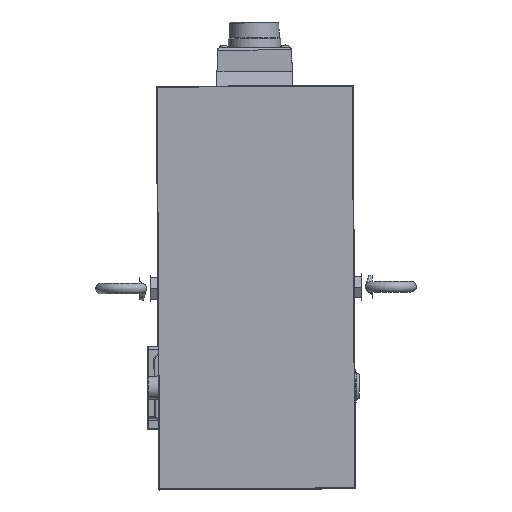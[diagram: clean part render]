
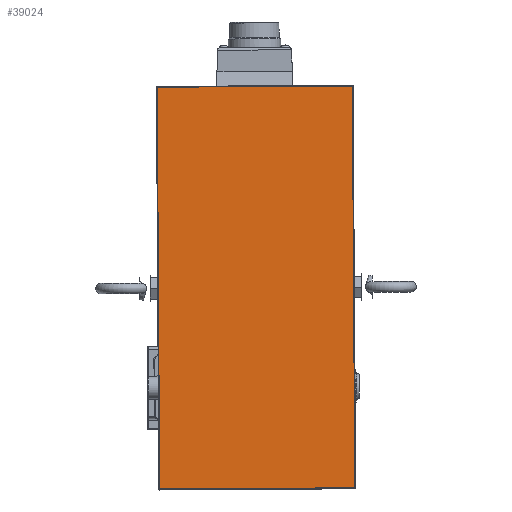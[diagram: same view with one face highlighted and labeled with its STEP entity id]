
A CAD part, top view. The second image highlights one B-rep face of the part: STEP entity #39024.
In plain terms, the highlighted planar face has unit normal (0, 0, 1).
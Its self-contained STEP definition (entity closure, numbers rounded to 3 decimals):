
#1926=PLANE('',#42383);
#5687=FACE_OUTER_BOUND('',#7935,.T.);
#7935=EDGE_LOOP('',(#33083,#33084,#33085,#33086));
#13135=LINE('',#73173,#15959);
#13138=LINE('',#73181,#15962);
#13140=LINE('',#73184,#15964);
#13144=LINE('',#73190,#15968);
#15959=VECTOR('',#51222,10.);
#15962=VECTOR('',#51231,10.);
#15964=VECTOR('',#51235,10.);
#15968=VECTOR('',#51243,10.);
#19153=VERTEX_POINT('',#73148);
#19154=VERTEX_POINT('',#73152);
#19158=VERTEX_POINT('',#73161);
#19160=VERTEX_POINT('',#73166);
#24083=EDGE_CURVE('',#19160,#19158,#13135,.T.);
#24087=EDGE_CURVE('',#19154,#19160,#13138,.T.);
#24089=EDGE_CURVE('',#19158,#19153,#13140,.T.);
#24093=EDGE_CURVE('',#19153,#19154,#13144,.T.);
#33083=ORIENTED_EDGE('',*,*,#24083,.F.);
#33084=ORIENTED_EDGE('',*,*,#24087,.F.);
#33085=ORIENTED_EDGE('',*,*,#24093,.F.);
#33086=ORIENTED_EDGE('',*,*,#24089,.F.);
#39024=ADVANCED_FACE('',(#5687),#1926,.T.);
#42383=AXIS2_PLACEMENT_3D('',#73201,#51258,#51259);
#51222=DIRECTION('',(-0.006,1.,0.));
#51231=DIRECTION('',(-1.,-0.006,0.));
#51235=DIRECTION('',(1.,0.006,0.));
#51243=DIRECTION('',(0.006,-1.,0.));
#51258=DIRECTION('center_axis',(0.,0.,
1.));
#51259=DIRECTION('ref_axis',(0.006,-1.,0.));
#73148=CARTESIAN_POINT('',(57.886,181.858,473.));
#73152=CARTESIAN_POINT('',(59.376,-61.137,473.));
#73161=CARTESIAN_POINT('',(-60.112,181.135,473.));
#73166=CARTESIAN_POINT('',(-58.622,-61.861,473.));
#73173=CARTESIAN_POINT('',(-58.631,-60.361,473.));
#73181=CARTESIAN_POINT('',(29.127,-61.322,473.));
#73184=CARTESIAN_POINT('',(27.636,181.673,473.));
#73190=CARTESIAN_POINT('',(59.367,-59.637,473.));
#73201=CARTESIAN_POINT('Origin',(57.867,-59.646,473.));
